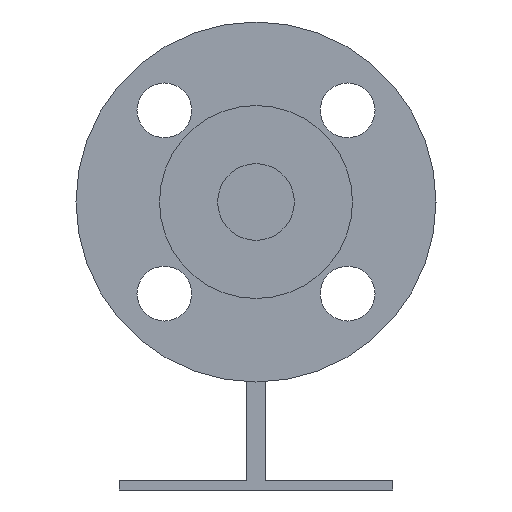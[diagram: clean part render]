
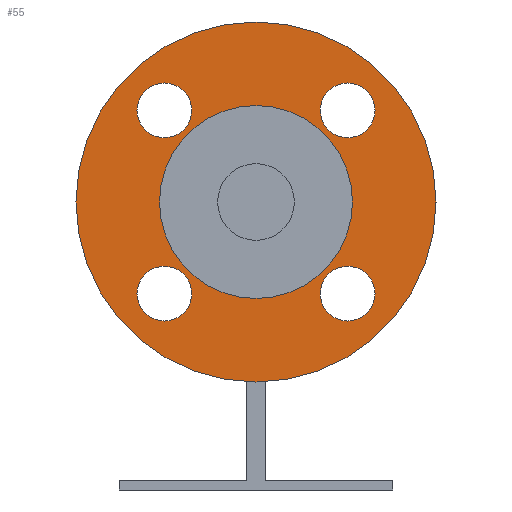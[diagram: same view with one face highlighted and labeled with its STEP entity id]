
A CAD part, left-side view. The second image highlights one B-rep face of the part: STEP entity #55.
In plain terms, the highlighted planar face has unit normal (-1, 0, 0).
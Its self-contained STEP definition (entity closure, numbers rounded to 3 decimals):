
#55=ADVANCED_FACE('',(#278,#279,#280,#281,#282,#283),#277,.T.);
#277=PLANE('',#1010);
#278=FACE_OUTER_BOUND('',#1011,.T.);
#279=FACE_BOUND('',#1012,.T.);
#280=FACE_BOUND('',#1013,.T.);
#281=FACE_BOUND('',#1014,.T.);
#282=FACE_BOUND('',#1015,.T.);
#283=FACE_BOUND('',#1016,.T.);
#1007=CARTESIAN_POINT('',(-339.,-118.253,-135.));
#1008=DIRECTION('',(-1.,0.,0.));
#1009=DIRECTION('',(0.,0.,1.));
#1010=AXIS2_PLACEMENT_3D('',#1007,#1008,#1009);
#1011=EDGE_LOOP('',(#1429,#1430));
#1012=EDGE_LOOP('',(#1431,#1432));
#1013=EDGE_LOOP('',(#1433,#1434));
#1014=EDGE_LOOP('',(#1435,#1436));
#1015=EDGE_LOOP('',(#1437,#1438));
#1016=EDGE_LOOP('',(#1439,#1440));
#1429=ORIENTED_EDGE('',*,*,#1803,.T.);
#1430=ORIENTED_EDGE('',*,*,#1804,.T.);
#1431=ORIENTED_EDGE('',*,*,#1805,.F.);
#1432=ORIENTED_EDGE('',*,*,#1806,.F.);
#1433=ORIENTED_EDGE('',*,*,#1807,.F.);
#1434=ORIENTED_EDGE('',*,*,#1808,.F.);
#1435=ORIENTED_EDGE('',*,*,#1809,.F.);
#1436=ORIENTED_EDGE('',*,*,#1810,.F.);
#1437=ORIENTED_EDGE('',*,*,#1811,.F.);
#1438=ORIENTED_EDGE('',*,*,#1812,.F.);
#1439=ORIENTED_EDGE('',*,*,#1813,.F.);
#1440=ORIENTED_EDGE('',*,*,#1814,.F.);
#1803=EDGE_CURVE('',#2425,#2426,#2427,.T.);
#1804=EDGE_CURVE('',#2426,#2425,#2433,.T.);
#1805=EDGE_CURVE('',#2439,#2440,#2441,.T.);
#1806=EDGE_CURVE('',#2440,#2439,#2447,.T.);
#1807=EDGE_CURVE('',#2453,#2454,#2455,.T.);
#1808=EDGE_CURVE('',#2454,#2453,#2461,.T.);
#1809=EDGE_CURVE('',#2467,#2468,#2469,.T.);
#1810=EDGE_CURVE('',#2468,#2467,#2475,.T.);
#1811=EDGE_CURVE('',#2481,#2482,#2483,.T.);
#1812=EDGE_CURVE('',#2482,#2481,#2489,.T.);
#1813=EDGE_CURVE('',#2495,#2496,#2497,.T.);
#1814=EDGE_CURVE('',#2496,#2495,#2503,.T.);
#2425=VERTEX_POINT('',#3529);
#2426=VERTEX_POINT('',#3530);
#2427=CIRCLE('',#3534,62.5);
#2433=CIRCLE('',#3538,62.5);
#2439=VERTEX_POINT('',#3539);
#2440=VERTEX_POINT('',#3540);
#2441=CIRCLE('',#3544,9.5);
#2447=CIRCLE('',#3548,9.5);
#2453=VERTEX_POINT('',#3549);
#2454=VERTEX_POINT('',#3550);
#2455=CIRCLE('',#3554,9.5);
#2461=CIRCLE('',#3558,9.5);
#2467=VERTEX_POINT('',#3559);
#2468=VERTEX_POINT('',#3560);
#2469=CIRCLE('',#3564,9.5);
#2475=CIRCLE('',#3568,9.5);
#2481=VERTEX_POINT('',#3569);
#2482=VERTEX_POINT('',#3570);
#2483=CIRCLE('',#3574,33.5);
#2489=CIRCLE('',#3578,33.5);
#2495=VERTEX_POINT('',#3579);
#2496=VERTEX_POINT('',#3580);
#2497=CIRCLE('',#3584,9.5);
#2503=CIRCLE('',#3588,9.5);
#3529=CARTESIAN_POINT('',(-339.,0.,62.5));
#3530=CARTESIAN_POINT('',(-339.,0.,-62.5));
#3531=CARTESIAN_POINT('',(-339.,0.,0.));
#3532=DIRECTION('',(-1.,0.,0.));
#3533=DIRECTION('',(0.,0.,1.));
#3534=AXIS2_PLACEMENT_3D('',#3531,#3532,#3533);
#3535=CARTESIAN_POINT('',(-339.,0.,0.));
#3536=DIRECTION('',(-1.,0.,0.));
#3537=DIRECTION('',(0.,0.,1.));
#3538=AXIS2_PLACEMENT_3D('',#3535,#3536,#3537);
#3539=CARTESIAN_POINT('',(-339.,31.82,41.32));
#3540=CARTESIAN_POINT('',(-339.,31.82,22.32));
#3541=CARTESIAN_POINT('',(-339.,31.82,31.82));
#3542=DIRECTION('',(-1.,0.,0.));
#3543=DIRECTION('',(0.,0.,-1.));
#3544=AXIS2_PLACEMENT_3D('',#3541,#3542,#3543);
#3545=CARTESIAN_POINT('',(-339.,31.82,31.82));
#3546=DIRECTION('',(-1.,0.,0.));
#3547=DIRECTION('',(0.,0.,-1.));
#3548=AXIS2_PLACEMENT_3D('',#3545,#3546,#3547);
#3549=CARTESIAN_POINT('',(-339.,31.82,-22.32));
#3550=CARTESIAN_POINT('',(-339.,31.82,-41.32));
#3551=CARTESIAN_POINT('',(-339.,31.82,-31.82));
#3552=DIRECTION('',(-1.,0.,0.));
#3553=DIRECTION('',(0.,0.,-1.));
#3554=AXIS2_PLACEMENT_3D('',#3551,#3552,#3553);
#3555=CARTESIAN_POINT('',(-339.,31.82,-31.82));
#3556=DIRECTION('',(-1.,0.,0.));
#3557=DIRECTION('',(0.,0.,-1.));
#3558=AXIS2_PLACEMENT_3D('',#3555,#3556,#3557);
#3559=CARTESIAN_POINT('',(-339.,-31.82,-22.32));
#3560=CARTESIAN_POINT('',(-339.,-31.82,-41.32));
#3561=CARTESIAN_POINT('',(-339.,-31.82,-31.82));
#3562=DIRECTION('',(-1.,0.,0.));
#3563=DIRECTION('',(0.,0.,-1.));
#3564=AXIS2_PLACEMENT_3D('',#3561,#3562,#3563);
#3565=CARTESIAN_POINT('',(-339.,-31.82,-31.82));
#3566=DIRECTION('',(-1.,0.,0.));
#3567=DIRECTION('',(0.,0.,-1.));
#3568=AXIS2_PLACEMENT_3D('',#3565,#3566,#3567);
#3569=CARTESIAN_POINT('',(-339.,0.,-33.5));
#3570=CARTESIAN_POINT('',(-339.,0.,33.5));
#3571=CARTESIAN_POINT('',(-339.,0.,0.));
#3572=DIRECTION('',(-1.,0.,0.));
#3573=DIRECTION('',(0.,0.,1.));
#3574=AXIS2_PLACEMENT_3D('',#3571,#3572,#3573);
#3575=CARTESIAN_POINT('',(-339.,0.,0.));
#3576=DIRECTION('',(-1.,0.,0.));
#3577=DIRECTION('',(0.,0.,1.));
#3578=AXIS2_PLACEMENT_3D('',#3575,#3576,#3577);
#3579=CARTESIAN_POINT('',(-339.,-31.82,41.32));
#3580=CARTESIAN_POINT('',(-339.,-31.82,22.32));
#3581=CARTESIAN_POINT('',(-339.,-31.82,31.82));
#3582=DIRECTION('',(-1.,0.,0.));
#3583=DIRECTION('',(0.,0.,-1.));
#3584=AXIS2_PLACEMENT_3D('',#3581,#3582,#3583);
#3585=CARTESIAN_POINT('',(-339.,-31.82,31.82));
#3586=DIRECTION('',(-1.,0.,0.));
#3587=DIRECTION('',(0.,0.,-1.));
#3588=AXIS2_PLACEMENT_3D('',#3585,#3586,#3587);
